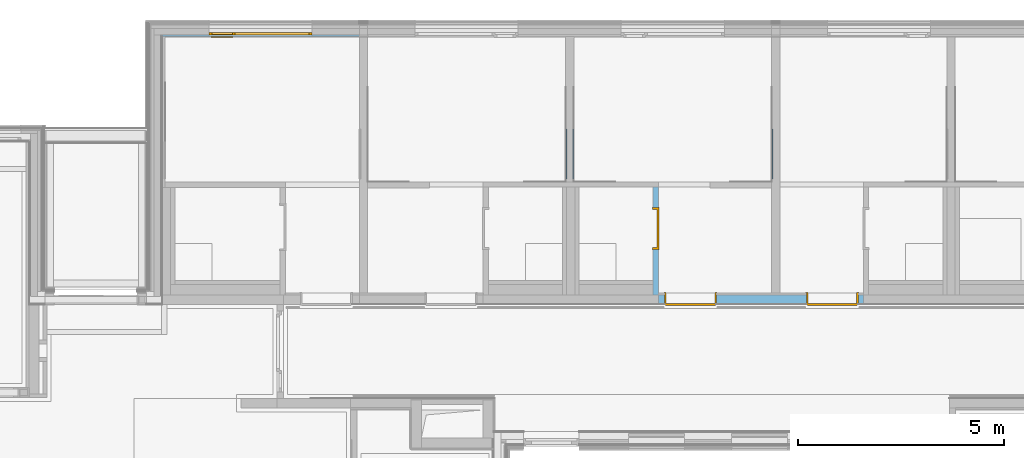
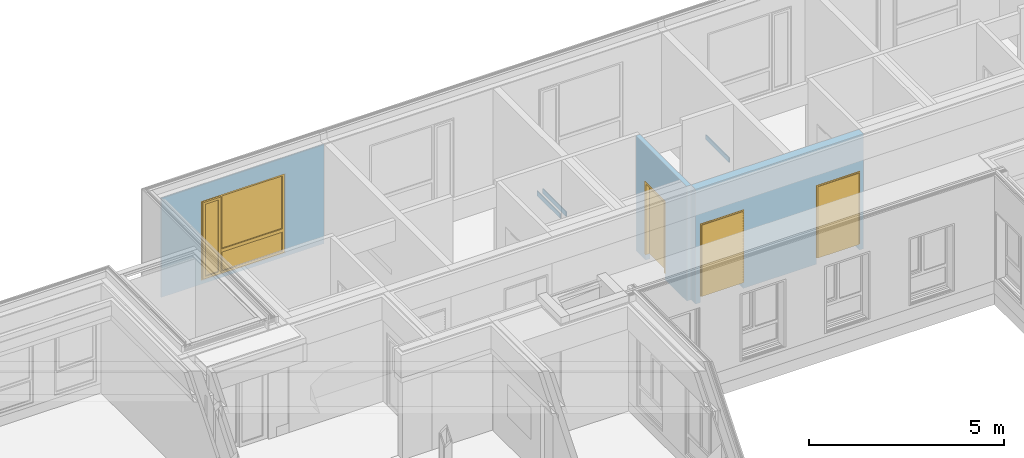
# One storey, part 147 of 207: 3 doors, 3 walls, 1 window, 4 openings, plus 3 elements that do not belong to this part.
"""IFC4 building model written with IfcOpenShell, lengths in metres."""

from ifc_helpers import new_model, entity, si_unit, converted_unit, derived_unit, frame, frame_2d, origin, origin_with_axes, place, context, subcontext, project, spatial, polyline, rectangle, outline, extrude, closed_shell, open_shell, faceted_brep, surface_model, source, transform, mapped, material, type_object, element, fill, save


model = new_model("IFC4")

# Units and contexts
model_context = context("Model", 3, precision=1e-05, world=origin())
body_context = subcontext(model_context, "Body", "Model", "MODEL_VIEW")
ifc_project = project(units=[si_unit("LENGTHUNIT", "METRE"), si_unit("AREAUNIT", "SQUARE_METRE"), si_unit("VOLUMEUNIT", "CUBIC_METRE"), si_unit("MASSUNIT", "GRAM", prefix="KILO"), converted_unit("PLANEANGLEUNIT", "DEGREE", entity("IfcPlaneAngleMeasure", 0.0174532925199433), si_unit("PLANEANGLEUNIT", "RADIAN"), dimensions=[0, 0, 0, 0, 0, 0, 0]), derived_unit("THERMALTRANSMITTANCEUNIT", [(si_unit("POWERUNIT", "WATT"), 1), (si_unit("THERMODYNAMICTEMPERATUREUNIT", "KELVIN"), -1), (si_unit("LENGTHUNIT", "METRE"), -2)]), derived_unit("VOLUMETRICFLOWRATEUNIT", [(si_unit("LENGTHUNIT", "METRE"), 3), (converted_unit("TIMEUNIT", "hour", entity("IfcTimeMeasure", 3600.0), si_unit("TIMEUNIT", "SECOND"), dimensions=[0, 0, 1, 0, 0, 0, 0]), -1), (si_unit("LENGTHUNIT", "METRE"), -1)])], contexts=[model_context])

# Site, building, storey
site_placement = place(None, origin())
site = spatial("IfcSite", under=ifc_project, at=site_placement, Name="Psychiatrie Neubau Wunstorf", CompositionType="ELEMENT")
building_placement = place(site_placement, origin())
building = spatial("IfcBuilding", under=site, at=building_placement, Name="Neubau H2 Stationsgebäude", CompositionType="ELEMENT")
storey_placement = place(building_placement, frame((0.0, 0.0, -0.2)))
storey = spatial("IfcBuildingStorey", under=building, at=storey_placement, Name="H2 Ebene 0", CompositionType="ELEMENT", Elevation=-0.2)

# Wall, opening, window
ifc_material_1 = material(Name="WA-LB")
wall_1_placement = place(storey_placement, frame((71.075, 31.614, 0.5), z_axis=(0.0, 0.0, 1.0), x_axis=(1.0, -1.50797048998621e-15, 0.0)))
wall_1 = element("IfcWall", 1, at=wall_1_placement, inside=storey, material=ifc_material_1, context=body_context, shape_type="SweptSolid", body=[
    extrude(rectangle(XDim=4.82499999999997, YDim=0.036, at=frame_2d((2.41249999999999, 0.018), x_axis=(1.0, 0.0))), origin_with_axes(), (0.0, 0.0, 1.0), 3.1),
])
opening_1_placement = place(wall_1_placement, frame((1.17499999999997, 0.0, 0.1), z_axis=(0.0, 1.0, 0.0), x_axis=(0.0, 0.0, 1.0)))
opening_1 = element("IfcOpeningElement", 2, at=opening_1_placement, cuts=wall_1, Name="Fensteröffnung", ObjectType="Opening", context=body_context, shape_type="SweptSolid", body=[
    extrude(outline(polyline([(2.5, 2.5), (2.5, 0.0), (0.0, 0.0), (0.0, 2.5), (2.5, 2.5)])), origin_with_axes(), (0.0, 0.0, 1.0), 0.0360000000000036),
])
shared_shape_1 = source(origin_with_axes(), body_context, "Body", "SurfaceModel", [
    surface_model("IfcShellBasedSurfaceModel", [(0.0, 0.0, 2.5), (0.07, 0.0, 2.5), (0.07, 0.0, 0.0), (0.0, 0.0, 0.0), (0.0, 0.0699999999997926, 0.0), (0.07, 0.0699999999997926, 0.0), (0.07, 0.0699999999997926, 2.5), (0.0, 0.0699999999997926, 2.5)], [closed_shell([[[0, 1, 2, 3]], [[4, 5, 6, 7]], [[3, 4, 7, 0]], [[2, 5, 4, 3]], [[1, 6, 5, 2]], [[0, 7, 6, 1]]], orient=[[False], [False], [False], [False], [False], [False]])]),
    surface_model("IfcShellBasedSurfaceModel", [(2.43, 0.0, 2.5), (2.5, 0.0, 2.5), (2.5, 0.0, 0.0), (2.43, 0.0, 0.0), (2.43, 0.0699999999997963, 0.0), (2.5, 0.0699999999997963, 0.0), (2.5, 0.0699999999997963, 2.5), (2.43, 0.0699999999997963, 2.5)], [closed_shell([[[0, 1, 2, 3]], [[4, 5, 6, 7]], [[3, 4, 7, 0]], [[2, 5, 4, 3]], [[1, 6, 5, 2]], [[0, 7, 6, 1]]], orient=[[False], [False], [False], [False], [False], [False]])]),
    surface_model("IfcShellBasedSurfaceModel", [(0.07, 0.0, 0.07), (2.43, 0.0, 0.07), (2.43, 0.0, 0.0), (0.07, 0.0, 0.0), (0.07, 0.0699999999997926, 0.0), (2.43, 0.0699999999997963, 0.0), (2.43, 0.0699999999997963, 0.07), (0.07, 0.0699999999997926, 0.07)], [closed_shell([[[0, 1, 2, 3]], [[4, 5, 6, 7]], [[3, 4, 7, 0]], [[2, 5, 4, 3]], [[1, 6, 5, 2]], [[0, 7, 6, 1]]], orient=[[False], [False], [False], [False], [False], [False]])]),
    surface_model("IfcShellBasedSurfaceModel", [(0.07, 0.0, 2.5), (2.43, 0.0, 2.5), (2.43, 0.0, 2.43), (0.07, 0.0, 2.43), (0.07, 0.0699999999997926, 2.43), (2.43, 0.0699999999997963, 2.43), (2.43, 0.0699999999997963, 2.5), (0.07, 0.0699999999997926, 2.5)], [closed_shell([[[0, 1, 2, 3]], [[4, 5, 6, 7]], [[3, 4, 7, 0]], [[2, 5, 4, 3]], [[1, 6, 5, 2]], [[0, 7, 6, 1]]], orient=[[False], [False], [False], [False], [False], [False]])]),
    surface_model("IfcShellBasedSurfaceModel", [(0.565714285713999, 0.0, 2.43), (0.635714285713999, 0.0, 2.43), (0.635714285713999, 0.0, 0.07), (0.565714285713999, 0.0, 0.07), (0.565714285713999, 0.0699999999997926, 0.07), (0.635714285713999, 0.0699999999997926, 0.07), (0.635714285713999, 0.0699999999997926, 2.43), (0.565714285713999, 0.0699999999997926, 2.43)], [closed_shell([[[0, 1, 2, 3]], [[4, 5, 6, 7]], [[3, 4, 7, 0]], [[2, 5, 4, 3]], [[1, 6, 5, 2]], [[0, 7, 6, 1]]], orient=[[False], [False], [False], [False], [False], [False]])]),
    surface_model("IfcShellBasedSurfaceModel", [(0.05, -0.0500000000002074, 2.45), (0.12, -0.0500000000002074, 2.45), (0.12, -0.0500000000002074, 0.05), (0.05, -0.0500000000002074, 0.05), (0.05, 0.0199999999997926, 0.05), (0.12, 0.0199999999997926, 0.05), (0.12, 0.0199999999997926, 2.45), (0.05, 0.0199999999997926, 2.45)], [closed_shell([[[0, 1, 2, 3]], [[4, 5, 6, 7]], [[3, 4, 7, 0]], [[2, 5, 4, 3]], [[1, 6, 5, 2]], [[0, 7, 6, 1]]], orient=[[False], [False], [False], [False], [False], [False]])]),
    surface_model("IfcShellBasedSurfaceModel", [(0.515714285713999, -0.0500000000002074, 2.45), (0.585714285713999, -0.0500000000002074, 2.45), (0.585714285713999, -0.0500000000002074, 0.05), (0.515714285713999, -0.0500000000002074, 0.05), (0.515714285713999, 0.0199999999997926, 0.05), (0.585714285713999, 0.0199999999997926, 0.05), (0.585714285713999, 0.0199999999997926, 2.45), (0.515714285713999, 0.0199999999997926, 2.45)], [closed_shell([[[0, 1, 2, 3]], [[4, 5, 6, 7]], [[3, 4, 7, 0]], [[2, 5, 4, 3]], [[1, 6, 5, 2]], [[0, 7, 6, 1]]], orient=[[False], [False], [False], [False], [False], [False]])]),
    surface_model("IfcShellBasedSurfaceModel", [(0.12, -0.0500000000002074, 0.12), (0.515714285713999, -0.0500000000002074, 0.12), (0.515714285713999, -0.0500000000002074, 0.05), (0.12, -0.0500000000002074, 0.05), (0.12, 0.0199999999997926, 0.05), (0.515714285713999, 0.0199999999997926, 0.05), (0.515714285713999, 0.0199999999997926, 0.12), (0.12, 0.0199999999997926, 0.12)], [closed_shell([[[0, 1, 2, 3]], [[4, 5, 6, 7]], [[3, 4, 7, 0]], [[2, 5, 4, 3]], [[1, 6, 5, 2]], [[0, 7, 6, 1]]], orient=[[False], [False], [False], [False], [False], [False]])]),
    surface_model("IfcShellBasedSurfaceModel", [(0.12, -0.0500000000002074, 2.45), (0.515714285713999, -0.0500000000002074, 2.45), (0.515714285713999, -0.0500000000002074, 2.38), (0.12, -0.0500000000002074, 2.38), (0.12, 0.0199999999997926, 2.38), (0.515714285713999, 0.0199999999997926, 2.38), (0.515714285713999, 0.0199999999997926, 2.45), (0.12, 0.0199999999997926, 2.45)], [closed_shell([[[0, 1, 2, 3]], [[4, 5, 6, 7]], [[3, 4, 7, 0]], [[2, 5, 4, 3]], [[1, 6, 5, 2]], [[0, 7, 6, 1]]], orient=[[False], [False], [False], [False], [False], [False]])]),
    surface_model("IfcShellBasedSurfaceModel", [(0.635714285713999, 0.0, 0.77), (2.43, 0.0, 0.77), (2.43, 0.0, 0.67), (0.635714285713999, 0.0, 0.67), (0.635714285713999, 0.0699999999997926, 0.67), (2.43, 0.0699999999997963, 0.67), (2.43, 0.0699999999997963, 0.77), (0.635714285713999, 0.0699999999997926, 0.77)], [closed_shell([[[0, 1, 2, 3]], [[4, 5, 6, 7]], [[3, 4, 7, 0]], [[2, 5, 4, 3]], [[1, 6, 5, 2]], [[0, 7, 6, 1]]], orient=[[False], [False], [False], [False], [False], [False]])]),
    surface_model("IfcShellBasedSurfaceModel", [(0.12, -0.0150000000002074, 0.12), (0.12, -0.0150000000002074, 2.38), (0.515714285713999, -0.0150000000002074, 2.38), (0.515714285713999, -0.0150000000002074, 0.12)], [open_shell([[[0, 1, 2, 3]]], orient=[[False]])]),
    surface_model("IfcShellBasedSurfaceModel", [(0.635714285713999, 0.0349999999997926, 0.07), (0.635714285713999, 0.0349999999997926, 0.67), (2.43, 0.0349999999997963, 0.67), (2.43, 0.0349999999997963, 0.07)], [open_shell([[[0, 1, 2, 3]]], orient=[[False]])]),
    surface_model("IfcShellBasedSurfaceModel", [(0.635714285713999, 0.0349999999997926, 0.77), (0.635714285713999, 0.0349999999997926, 2.43), (2.43, 0.0349999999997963, 2.43), (2.43, 0.0349999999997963, 0.77)], [open_shell([[[0, 1, 2, 3]]], orient=[[False]])]),
])
window_placement = place(opening_1_placement, frame((0.0, 0.0, 0.03), z_axis=(1.0, 0.0, 0.0), x_axis=(0.0, 1.0, 5.27789671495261e-17)))
window = element("IfcWindow", 3, at=window_placement, inside=storey, Name="Fenster", OverallHeight=2.5, OverallWidth=2.5, PartitioningType="USERDEFINED", PredefinedType="WINDOW", context=body_context, shape_type="MappedRepresentation", body=[
    mapped(shared_shape_1, transform((0.0, 0.0, 0.0), x_axis=(1.0, 0.0, 0.0), y_axis=(0.0, 1.0, 0.0), z_axis=(0.0, 0.0, 1.0), scale=1.0)),
])
fill(opening_1, window)

# Walls
for number, where, name in (
    (4, (81.075, 28.1628, 1.625), "WV 1.1"),
    (5, (85.9000000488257, 28.1628, 1.625), "WV 1.1"),
    (6, (80.9, 28.1628, 1.625), "WV 1.1"),
):
    element("IfcWall", number, at=place(storey_placement, frame(where)), inside=storey, Name=name, context=body_context, shape_type="Brep", body=[
        faceted_brep([(0.025, 1.2, 0.0), (0.0, 1.2, 0.0), (0.0, 0.0, 0.0), (0.025, 0.0, 0.0), (0.0, 1.2, 0.15), (0.025, 1.2, 0.15), (0.025, 0.0, 0.15), (0.0, 0.0, 0.15)], [[[0, 1, 2, 3]], [[4, 5, 6, 7]], [[1, 0, 5, 4]], [[2, 1, 4, 7]], [[3, 2, 7, 6]], [[0, 3, 6, 5]]], orient=[[False], [False], [False], [False], [False], [False]]),
    ])

# Wall, opening, door
ifc_material_2 = material(Name="WI-LB")
wall_2_placement = place(storey_placement, frame((83.025, 27.9645, 0.0), z_axis=(0.0, 0.0, 1.0), x_axis=(0.0, -1.0, 0.0)))
wall_2 = element("IfcWall", 7, at=wall_2_placement, inside=storey, material=ifc_material_2, context=body_context, shape_type="SweptSolid", body=[
    extrude(rectangle(XDim=2.615, YDim=0.125, at=frame_2d((1.3075, 0.0625), x_axis=(1.0, 0.0))), origin_with_axes(), (0.0, 0.0, 1.0), 3.6),
])
opening_2_placement = place(wall_2_placement, frame((0.5, 0.0, 0.0), z_axis=(0.0, 1.0, 0.0), x_axis=(0.0, 0.0, 1.0)))
opening_2 = element("IfcOpeningElement", 8, at=opening_2_placement, cuts=wall_2, Name="Türöffnung", ObjectType="Opening", context=body_context, shape_type="SweptSolid", body=[
    extrude(outline(polyline([(2.46, 1.01), (2.46, 0.0), (0.0, 0.0), (0.0, 1.01), (2.46, 1.01)])), origin_with_axes(), (0.0, 0.0, 1.0), 0.125),
])
ifc_material_3 = material(Name="TI-1F-UZ-D-N")
door_type_1 = type_object("IfcDoorType", Name="SMT", OperationType="SINGLE_SWING_RIGHT", ParameterTakesPrecedence=False, PredefinedType="DOOR")
shared_shape_2 = source(origin_with_axes(), body_context, "Body", "Brep", [
    faceted_brep([(-0.0399999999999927, 0.0124999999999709, 0.0), (0.0, 0.0124999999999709, 0.0), (0.0, 0.112499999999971, 0.0), (-0.0399999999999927, 0.112499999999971, 0.0), (-0.0399999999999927, 0.112499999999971, 3.6), (0.0, 0.112499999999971, 3.6), (0.0, 0.0124999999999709, 3.6), (-0.0399999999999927, 0.0124999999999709, 3.6)], [[[0, 1, 2, 3]], [[4, 5, 6, 7]], [[3, 4, 7, 0]], [[2, 5, 4, 3]], [[1, 6, 5, 2]], [[0, 7, 6, 1]]], orient=[[False], [False], [False], [False], [False], [False]]),
    faceted_brep([(1.01000000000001, 0.0124999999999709, 0.0), (1.05000000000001, 0.0124999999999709, 0.0), (1.05000000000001, 0.112499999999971, 0.0), (1.01000000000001, 0.112499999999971, 0.0), (1.01000000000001, 0.112499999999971, 3.6), (1.05000000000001, 0.112499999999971, 3.6), (1.05000000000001, 0.0124999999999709, 3.6), (1.01000000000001, 0.0124999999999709, 3.6)], [[[0, 1, 2, 3]], [[4, 5, 6, 7]], [[3, 4, 7, 0]], [[2, 5, 4, 3]], [[1, 6, 5, 2]], [[0, 7, 6, 1]]], orient=[[False], [False], [False], [False], [False], [False]]),
    faceted_brep([(0.0, 0.0124999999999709, 2.46), (1.01000000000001, 0.0124999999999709, 2.46), (1.01000000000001, 0.112499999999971, 2.46), (0.0, 0.112499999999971, 2.46), (0.0, 0.112499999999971, 2.5), (1.01000000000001, 0.112499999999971, 2.5), (1.01000000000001, 0.0124999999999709, 2.5), (0.0, 0.0124999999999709, 2.5)], [[[0, 1, 2, 3]], [[4, 5, 6, 7]], [[3, 4, 7, 0]], [[2, 5, 4, 3]], [[1, 6, 5, 2]], [[0, 7, 6, 1]]], orient=[[False], [False], [False], [False], [False], [False]]),
])
shared_shape_3 = source(origin_with_axes(), body_context, "Body", "Brep", [
    faceted_brep([(1.01000000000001, -0.0150000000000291, 2.46), (1.01000000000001, -0.0150000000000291, 0.2), (0.970000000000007, -0.0150000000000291, 0.2), (0.970000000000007, -0.0150000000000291, 2.46), (1.01000000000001, 0.139999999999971, 0.2), (1.01000000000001, 0.139999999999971, 2.46), (0.970000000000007, 0.139999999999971, 2.46), (0.970000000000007, 0.139999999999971, 0.2)], [[[0, 1, 2, 3]], [[4, 5, 6, 7]], [[1, 0, 5, 4]], [[2, 1, 4, 7]], [[3, 2, 7, 6]], [[0, 3, 6, 5]]], orient=[[False], [False], [False], [False], [False], [False]]),
    faceted_brep([(1.01000000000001, -0.0150000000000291, 2.475), (1.02500000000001, -0.0150000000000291, 2.475), (1.02500000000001, -0.0150000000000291, 0.2), (1.01000000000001, -0.0150000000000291, 0.2), (1.01000000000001, 0.0, 0.2), (1.02500000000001, 0.0, 0.2), (1.02500000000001, 0.0, 2.475), (1.01000000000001, 0.0, 2.475)], [[[0, 1, 2, 3]], [[4, 5, 6, 7]], [[3, 4, 7, 0]], [[2, 5, 4, 3]], [[1, 6, 5, 2]], [[0, 7, 6, 1]]], orient=[[False], [False], [False], [False], [False], [False]]),
    faceted_brep([(1.01000000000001, 0.124999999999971, 2.475), (1.02500000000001, 0.124999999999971, 2.475), (1.02500000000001, 0.124999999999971, 0.2), (1.01000000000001, 0.124999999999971, 0.2), (1.01000000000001, 0.139999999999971, 0.2), (1.02500000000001, 0.139999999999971, 0.2), (1.02500000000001, 0.139999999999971, 2.475), (1.01000000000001, 0.139999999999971, 2.475)], [[[0, 1, 2, 3]], [[4, 5, 6, 7]], [[3, 4, 7, 0]], [[2, 5, 4, 3]], [[1, 6, 5, 2]], [[0, 7, 6, 1]]], orient=[[False], [False], [False], [False], [False], [False]]),
    faceted_brep([(0.0400000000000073, -0.0150000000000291, 2.46), (0.0400000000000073, -0.0150000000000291, 0.2), (0.0, -0.0150000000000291, 0.2), (0.0, -0.0150000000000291, 2.46), (0.0400000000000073, 0.139999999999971, 0.2), (0.0400000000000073, 0.139999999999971, 2.46), (0.0, 0.139999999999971, 2.46), (0.0, 0.139999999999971, 0.2)], [[[0, 1, 2, 3]], [[4, 5, 6, 7]], [[1, 0, 5, 4]], [[2, 1, 4, 7]], [[3, 2, 7, 6]], [[0, 3, 6, 5]]], orient=[[False], [False], [False], [False], [False], [False]]),
    faceted_brep([(0.0, -0.0150000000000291, 2.475), (0.0, -0.0150000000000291, 0.2), (-0.0149999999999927, -0.0150000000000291, 0.2), (-0.0149999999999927, -0.0150000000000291, 2.475), (0.0, 0.0, 0.2), (0.0, 0.0, 2.475), (-0.0149999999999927, 0.0, 2.475), (-0.0149999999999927, 0.0, 0.2)], [[[0, 1, 2, 3]], [[4, 5, 6, 7]], [[1, 0, 5, 4]], [[2, 1, 4, 7]], [[3, 2, 7, 6]], [[0, 3, 6, 5]]], orient=[[False], [False], [False], [False], [False], [False]]),
    faceted_brep([(0.0, 0.124999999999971, 2.475), (0.0, 0.124999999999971, 0.2), (-0.0149999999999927, 0.124999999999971, 0.2), (-0.0149999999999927, 0.124999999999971, 2.475), (0.0, 0.139999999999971, 0.2), (0.0, 0.139999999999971, 2.475), (-0.0149999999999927, 0.139999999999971, 2.475), (-0.0149999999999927, 0.139999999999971, 0.2)], [[[0, 1, 2, 3]], [[4, 5, 6, 7]], [[1, 0, 5, 4]], [[2, 1, 4, 7]], [[3, 2, 7, 6]], [[0, 3, 6, 5]]], orient=[[False], [False], [False], [False], [False], [False]]),
    faceted_brep([(0.970000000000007, -0.0150000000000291, 2.46), (0.970000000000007, -0.0150000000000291, 2.42), (0.0400000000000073, -0.0150000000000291, 2.42), (0.0400000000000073, -0.0150000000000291, 2.46), (0.970000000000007, 0.139999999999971, 2.42), (0.970000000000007, 0.139999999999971, 2.46), (0.0400000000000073, 0.139999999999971, 2.46), (0.0400000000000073, 0.139999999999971, 2.42)], [[[0, 1, 2, 3]], [[4, 5, 6, 7]], [[1, 0, 5, 4]], [[2, 1, 4, 7]], [[3, 2, 7, 6]], [[0, 3, 6, 5]]], orient=[[False], [False], [False], [False], [False], [False]]),
    faceted_brep([(1.01000000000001, -0.0150000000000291, 2.475), (1.01000000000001, -0.0150000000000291, 2.46), (0.0, -0.0150000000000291, 2.46), (0.0, -0.0150000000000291, 2.475), (1.01000000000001, 0.0, 2.46), (1.01000000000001, 0.0, 2.475), (0.0, 0.0, 2.475), (0.0, 0.0, 2.46)], [[[0, 1, 2, 3]], [[4, 5, 6, 7]], [[1, 0, 5, 4]], [[2, 1, 4, 7]], [[3, 2, 7, 6]], [[0, 3, 6, 5]]], orient=[[False], [False], [False], [False], [False], [False]]),
    faceted_brep([(1.01000000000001, 0.124999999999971, 2.475), (1.01000000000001, 0.124999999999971, 2.46), (0.0, 0.124999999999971, 2.46), (0.0, 0.124999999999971, 2.475), (1.01000000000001, 0.139999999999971, 2.46), (1.01000000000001, 0.139999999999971, 2.475), (0.0, 0.139999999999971, 2.475), (0.0, 0.139999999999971, 2.46)], [[[0, 1, 2, 3]], [[4, 5, 6, 7]], [[1, 0, 5, 4]], [[2, 1, 4, 7]], [[3, 2, 7, 6]], [[0, 3, 6, 5]]], orient=[[False], [False], [False], [False], [False], [False]]),
    faceted_brep([(0.985000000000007, 0.0909999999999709, 2.435), (0.985000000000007, 0.0909999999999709, 0.2), (0.0250000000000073, 0.0909999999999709, 0.2), (0.0250000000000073, 0.0909999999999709, 2.435), (0.985000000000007, 0.140999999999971, 0.2), (0.985000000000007, 0.140999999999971, 2.435), (0.0250000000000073, 0.140999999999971, 2.435), (0.0250000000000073, 0.140999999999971, 0.2)], [[[0, 1, 2, 3]], [[4, 5, 6, 7]], [[1, 0, 5, 4]], [[2, 1, 4, 7]], [[3, 2, 7, 6]], [[0, 3, 6, 5]]], orient=[[False], [False], [False], [False], [False], [False]]),
])
door_1_placement = place(opening_2_placement, frame((0.0, 0.0, 0.0), z_axis=(1.0, 0.0, 0.0), x_axis=(0.0, 1.0, 0.0)))
door_1 = element("IfcDoor", 9, at=door_1_placement, inside=storey, type_object=door_type_1, material=ifc_material_3, Name="SMT", OverallHeight=2.46, OverallWidth=1.01, context=body_context, shape_type="MappedRepresentation", body=[
    mapped(shared_shape_2, transform((0.0, 0.0, 0.0), x_axis=(1.0, 0.0, 0.0), y_axis=(0.0, 1.0, 0.0), z_axis=(0.0, 0.0, 1.0), scale=1.0)),
    mapped(shared_shape_3, transform((0.0, 0.0, 0.0), x_axis=(1.0, 0.0, 0.0), y_axis=(0.0, 1.0, 0.0), z_axis=(0.0, 0.0, 1.0), scale=1.0)),
])
fill(opening_2, door_1)

# Wall, openings, doors
ifc_material_4 = material(Name="WI-HW 60")
wall_3_placement = place(storey_placement, frame((83.15, 25.1175, 0.0)))
wall_3 = element("IfcWall", 10, at=wall_3_placement, inside=storey, material=ifc_material_4, context=body_context, shape_type="SweptSolid", body=[
    extrude(rectangle(XDim=4.975, YDim=0.232, at=frame_2d((2.4875, 0.116), x_axis=(1.0, 0.0))), origin_with_axes(), (0.0, 0.0, 1.0), 3.6),
])
opening_3_placement = place(wall_3_placement, frame((0.15, 0.0, 0.0), z_axis=(0.0, 1.0, 0.0), x_axis=(0.0, 0.0, 1.0)))
opening_3 = element("IfcOpeningElement", 11, at=opening_3_placement, cuts=wall_3, Name="Türöffnung", ObjectType="Opening", context=body_context, shape_type="SweptSolid", body=[
    extrude(outline(polyline([(2.46, 1.26), (2.46, 0.0), (0.0, 0.0), (0.0, 1.26), (2.46, 1.26)])), origin_with_axes(), (0.0, 0.0, 1.0), 0.232),
])
opening_4_placement = place(wall_3_placement, frame((3.59, 0.0, 0.0), z_axis=(0.0, 1.0, 0.0), x_axis=(0.0, 0.0, 1.0)))
opening_4 = element("IfcOpeningElement", 12, at=opening_4_placement, cuts=wall_3, Name="Türöffnung", ObjectType="Opening", context=body_context, shape_type="SweptSolid", body=[
    extrude(outline(polyline([(2.46, 1.26), (2.46, 0.0), (0.0, 0.0), (0.0, 1.26), (2.46, 1.26)])), origin_with_axes(), (0.0, 0.0, 1.0), 0.232),
])
ifc_material_5 = material(Name="TI-2F-UZ-D")
door_type_2 = type_object("IfcDoorType", Name="SMT", OperationType="DOUBLE_DOOR_SINGLE_SWING", ParameterTakesPrecedence=False, PredefinedType="DOOR")
shared_shape_4 = source(origin_with_axes(), body_context, "Body", "Brep", [
    faceted_brep([(0.0, -0.015, 2.46), (0.04, -0.015, 2.46), (0.04, -0.015, 0.2), (0.0, -0.015, 0.2), (0.0, 0.287, 0.2), (0.04, 0.287, 0.2), (0.04, 0.287, 2.46), (0.0, 0.287, 2.46)], [[[0, 1, 2, 3]], [[4, 5, 6, 7]], [[3, 4, 7, 0]], [[2, 5, 4, 3]], [[1, 6, 5, 2]], [[0, 7, 6, 1]]], orient=[[False], [False], [False], [False], [False], [False]]),
    faceted_brep([(0.0, -0.015, 2.475), (0.0, -0.015, 0.2), (-0.015, -0.015, 0.2), (-0.015, -0.015, 2.475), (0.0, 0.0, 0.2), (0.0, 0.0, 2.475), (-0.015, 0.0, 2.475), (-0.015, 0.0, 0.2)], [[[0, 1, 2, 3]], [[4, 5, 6, 7]], [[1, 0, 5, 4]], [[2, 1, 4, 7]], [[3, 2, 7, 6]], [[0, 3, 6, 5]]], orient=[[False], [False], [False], [False], [False], [False]]),
    faceted_brep([(0.0, 0.272, 2.475), (0.0, 0.272, 0.2), (-0.015, 0.272, 0.2), (-0.015, 0.272, 2.475), (0.0, 0.287, 0.2), (0.0, 0.287, 2.475), (-0.015, 0.287, 2.475), (-0.015, 0.287, 0.2)], [[[0, 1, 2, 3]], [[4, 5, 6, 7]], [[1, 0, 5, 4]], [[2, 1, 4, 7]], [[3, 2, 7, 6]], [[0, 3, 6, 5]]], orient=[[False], [False], [False], [False], [False], [False]]),
    faceted_brep([(1.22, -0.015, 2.46), (1.26, -0.015, 2.46), (1.26, -0.015, 0.2), (1.22, -0.015, 0.2), (1.22, 0.287, 0.2), (1.26, 0.287, 0.2), (1.26, 0.287, 2.46), (1.22, 0.287, 2.46)], [[[0, 1, 2, 3]], [[4, 5, 6, 7]], [[3, 4, 7, 0]], [[2, 5, 4, 3]], [[1, 6, 5, 2]], [[0, 7, 6, 1]]], orient=[[False], [False], [False], [False], [False], [False]]),
    faceted_brep([(1.26, -0.015, 2.475), (1.275, -0.015, 2.475), (1.275, -0.015, 0.2), (1.26, -0.015, 0.2), (1.26, 0.0, 0.2), (1.275, 0.0, 0.2), (1.275, 0.0, 2.475), (1.26, 0.0, 2.475)], [[[0, 1, 2, 3]], [[4, 5, 6, 7]], [[3, 4, 7, 0]], [[2, 5, 4, 3]], [[1, 6, 5, 2]], [[0, 7, 6, 1]]], orient=[[False], [False], [False], [False], [False], [False]]),
    faceted_brep([(1.26, 0.272, 2.475), (1.275, 0.272, 2.475), (1.275, 0.272, 0.2), (1.26, 0.272, 0.2), (1.26, 0.287, 0.2), (1.275, 0.287, 0.2), (1.275, 0.287, 2.475), (1.26, 0.287, 2.475)], [[[0, 1, 2, 3]], [[4, 5, 6, 7]], [[3, 4, 7, 0]], [[2, 5, 4, 3]], [[1, 6, 5, 2]], [[0, 7, 6, 1]]], orient=[[False], [False], [False], [False], [False], [False]]),
    faceted_brep([(0.04, -0.015, 2.46), (1.22, -0.015, 2.46), (1.22, -0.015, 2.42), (0.04, -0.015, 2.42), (0.04, 0.287, 2.42), (1.22, 0.287, 2.42), (1.22, 0.287, 2.46), (0.04, 0.287, 2.46)], [[[0, 1, 2, 3]], [[4, 5, 6, 7]], [[3, 4, 7, 0]], [[2, 5, 4, 3]], [[1, 6, 5, 2]], [[0, 7, 6, 1]]], orient=[[False], [False], [False], [False], [False], [False]]),
    faceted_brep([(0.0, -0.015, 2.475), (1.26, -0.015, 2.475), (1.26, -0.015, 2.46), (0.0, -0.015, 2.46), (0.0, 0.0, 2.46), (1.26, 0.0, 2.46), (1.26, 0.0, 2.475), (0.0, 0.0, 2.475)], [[[0, 1, 2, 3]], [[4, 5, 6, 7]], [[3, 4, 7, 0]], [[2, 5, 4, 3]], [[1, 6, 5, 2]], [[0, 7, 6, 1]]], orient=[[False], [False], [False], [False], [False], [False]]),
    faceted_brep([(0.0, 0.272, 2.475), (1.26, 0.272, 2.475), (1.26, 0.272, 2.46), (0.0, 0.272, 2.46), (0.0, 0.287, 2.46), (1.26, 0.287, 2.46), (1.26, 0.287, 2.475), (0.0, 0.287, 2.475)], [[[0, 1, 2, 3]], [[4, 5, 6, 7]], [[3, 4, 7, 0]], [[2, 5, 4, 3]], [[1, 6, 5, 2]], [[0, 7, 6, 1]]], orient=[[False], [False], [False], [False], [False], [False]]),
    faceted_brep([(0.025, 0.252, 2.435), (0.925, 0.252, 2.435), (0.925, 0.252, 0.2), (0.025, 0.252, 0.2), (0.025, 0.302, 0.2), (0.925, 0.302, 0.2), (0.925, 0.302, 2.435), (0.025, 0.302, 2.435)], [[[0, 1, 2, 3]], [[4, 5, 6, 7]], [[3, 4, 7, 0]], [[2, 5, 4, 3]], [[1, 6, 5, 2]], [[0, 7, 6, 1]]], orient=[[False], [False], [False], [False], [False], [False]]),
    faceted_brep([(0.926, 0.252, 2.435), (1.235, 0.252, 2.435), (1.235, 0.252, 0.2), (0.926, 0.252, 0.2), (0.926, 0.302, 0.2), (1.235, 0.302, 0.2), (1.235, 0.302, 2.435), (0.926, 0.302, 2.435)], [[[0, 1, 2, 3]], [[4, 5, 6, 7]], [[3, 4, 7, 0]], [[2, 5, 4, 3]], [[1, 6, 5, 2]], [[0, 7, 6, 1]]], orient=[[False], [False], [False], [False], [False], [False]]),
])
door_2_placement = place(opening_3_placement, frame((0.0, 1.26, 0.272), z_axis=(1.0, 0.0, 0.0), x_axis=(0.0, -1.0, 0.0)))
door_2 = element("IfcDoor", 13, at=door_2_placement, inside=storey, type_object=door_type_2, material=ifc_material_5, Name="SMT", OverallHeight=2.46, OverallWidth=1.26, context=body_context, shape_type="MappedRepresentation", body=[
    mapped(shared_shape_4, transform((0.0, 0.0, 0.0), x_axis=(1.0, 0.0, 0.0), y_axis=(0.0, 1.0, 0.0), z_axis=(0.0, 0.0, 1.0), scale=1.0)),
])
fill(opening_3, door_2)
ifc_material_6 = material(Name="TI-2F-UZ-D")
door_type_3 = type_object("IfcDoorType", Name="SMT", OperationType="DOUBLE_DOOR_SINGLE_SWING", ParameterTakesPrecedence=False, PredefinedType="DOOR")
shared_shape_5 = source(origin_with_axes(), body_context, "Body", "Brep", [
    faceted_brep([(1.26, -0.015, 2.46), (1.26, -0.015, 0.2), (1.22, -0.015, 0.2), (1.22, -0.015, 2.46), (1.26, 0.287, 0.2), (1.26, 0.287, 2.46), (1.22, 0.287, 2.46), (1.22, 0.287, 0.2)], [[[0, 1, 2, 3]], [[4, 5, 6, 7]], [[1, 0, 5, 4]], [[2, 1, 4, 7]], [[3, 2, 7, 6]], [[0, 3, 6, 5]]], orient=[[False], [False], [False], [False], [False], [False]]),
    faceted_brep([(1.26, -0.015, 2.475), (1.275, -0.015, 2.475), (1.275, -0.015, 0.2), (1.26, -0.015, 0.2), (1.26, 0.0, 0.2), (1.275, 0.0, 0.2), (1.275, 0.0, 2.475), (1.26, 0.0, 2.475)], [[[0, 1, 2, 3]], [[4, 5, 6, 7]], [[3, 4, 7, 0]], [[2, 5, 4, 3]], [[1, 6, 5, 2]], [[0, 7, 6, 1]]], orient=[[False], [False], [False], [False], [False], [False]]),
    faceted_brep([(1.26, 0.272, 2.475), (1.275, 0.272, 2.475), (1.275, 0.272, 0.2), (1.26, 0.272, 0.2), (1.26, 0.287, 0.2), (1.275, 0.287, 0.2), (1.275, 0.287, 2.475), (1.26, 0.287, 2.475)], [[[0, 1, 2, 3]], [[4, 5, 6, 7]], [[3, 4, 7, 0]], [[2, 5, 4, 3]], [[1, 6, 5, 2]], [[0, 7, 6, 1]]], orient=[[False], [False], [False], [False], [False], [False]]),
    faceted_brep([(0.04, -0.015, 2.46), (0.04, -0.015, 0.2), (0.0, -0.015, 0.2), (0.0, -0.015, 2.46), (0.04, 0.287, 0.2), (0.04, 0.287, 2.46), (0.0, 0.287, 2.46), (0.0, 0.287, 0.2)], [[[0, 1, 2, 3]], [[4, 5, 6, 7]], [[1, 0, 5, 4]], [[2, 1, 4, 7]], [[3, 2, 7, 6]], [[0, 3, 6, 5]]], orient=[[False], [False], [False], [False], [False], [False]]),
    faceted_brep([(0.0, -0.015, 2.475), (0.0, -0.015, 0.2), (-0.015, -0.015, 0.2), (-0.015, -0.015, 2.475), (0.0, 0.0, 0.2), (0.0, 0.0, 2.475), (-0.015, 0.0, 2.475), (-0.015, 0.0, 0.2)], [[[0, 1, 2, 3]], [[4, 5, 6, 7]], [[1, 0, 5, 4]], [[2, 1, 4, 7]], [[3, 2, 7, 6]], [[0, 3, 6, 5]]], orient=[[False], [False], [False], [False], [False], [False]]),
    faceted_brep([(0.0, 0.272, 2.475), (0.0, 0.272, 0.2), (-0.015, 0.272, 0.2), (-0.015, 0.272, 2.475), (0.0, 0.287, 0.2), (0.0, 0.287, 2.475), (-0.015, 0.287, 2.475), (-0.015, 0.287, 0.2)], [[[0, 1, 2, 3]], [[4, 5, 6, 7]], [[1, 0, 5, 4]], [[2, 1, 4, 7]], [[3, 2, 7, 6]], [[0, 3, 6, 5]]], orient=[[False], [False], [False], [False], [False], [False]]),
    faceted_brep([(1.22, -0.015, 2.46), (1.22, -0.015, 2.42), (0.04, -0.015, 2.42), (0.04, -0.015, 2.46), (1.22, 0.287, 2.42), (1.22, 0.287, 2.46), (0.04, 0.287, 2.46), (0.04, 0.287, 2.42)], [[[0, 1, 2, 3]], [[4, 5, 6, 7]], [[1, 0, 5, 4]], [[2, 1, 4, 7]], [[3, 2, 7, 6]], [[0, 3, 6, 5]]], orient=[[False], [False], [False], [False], [False], [False]]),
    faceted_brep([(1.26, -0.015, 2.475), (1.26, -0.015, 2.46), (0.0, -0.015, 2.46), (0.0, -0.015, 2.475), (1.26, 0.0, 2.46), (1.26, 0.0, 2.475), (0.0, 0.0, 2.475), (0.0, 0.0, 2.46)], [[[0, 1, 2, 3]], [[4, 5, 6, 7]], [[1, 0, 5, 4]], [[2, 1, 4, 7]], [[3, 2, 7, 6]], [[0, 3, 6, 5]]], orient=[[False], [False], [False], [False], [False], [False]]),
    faceted_brep([(1.26, 0.272, 2.475), (1.26, 0.272, 2.46), (0.0, 0.272, 2.46), (0.0, 0.272, 2.475), (1.26, 0.287, 2.46), (1.26, 0.287, 2.475), (0.0, 0.287, 2.475), (0.0, 0.287, 2.46)], [[[0, 1, 2, 3]], [[4, 5, 6, 7]], [[1, 0, 5, 4]], [[2, 1, 4, 7]], [[3, 2, 7, 6]], [[0, 3, 6, 5]]], orient=[[False], [False], [False], [False], [False], [False]]),
    faceted_brep([(1.235, 0.252, 2.435), (1.235, 0.252, 0.2), (0.335, 0.252, 0.2), (0.335, 0.252, 2.435), (1.235, 0.302, 0.2), (1.235, 0.302, 2.435), (0.335, 0.302, 2.435), (0.335, 0.302, 0.2)], [[[0, 1, 2, 3]], [[4, 5, 6, 7]], [[1, 0, 5, 4]], [[2, 1, 4, 7]], [[3, 2, 7, 6]], [[0, 3, 6, 5]]], orient=[[False], [False], [False], [False], [False], [False]]),
    faceted_brep([(0.334, 0.252, 2.435), (0.334, 0.252, 0.2), (0.025, 0.252, 0.2), (0.025, 0.252, 2.435), (0.334, 0.302, 0.2), (0.334, 0.302, 2.435), (0.025, 0.302, 2.435), (0.025, 0.302, 0.2)], [[[0, 1, 2, 3]], [[4, 5, 6, 7]], [[1, 0, 5, 4]], [[2, 1, 4, 7]], [[3, 2, 7, 6]], [[0, 3, 6, 5]]], orient=[[False], [False], [False], [False], [False], [False]]),
])
door_3_placement = place(opening_4_placement, frame((0.0, 1.26, 0.272), z_axis=(1.0, 0.0, 0.0), x_axis=(0.0, -1.0, 0.0)))
door_3 = element("IfcDoor", 14, at=door_3_placement, inside=storey, type_object=door_type_3, material=ifc_material_6, Name="SMT", OverallHeight=2.46, OverallWidth=1.26, context=body_context, shape_type="MappedRepresentation", body=[
    mapped(shared_shape_5, transform((0.0, 0.0, 0.0), x_axis=(1.0, 0.0, 0.0), y_axis=(0.0, 1.0, 0.0), z_axis=(0.0, 0.0, 1.0), scale=1.0)),
])
fill(opening_4, door_3)

save(model, "model.ifc")
